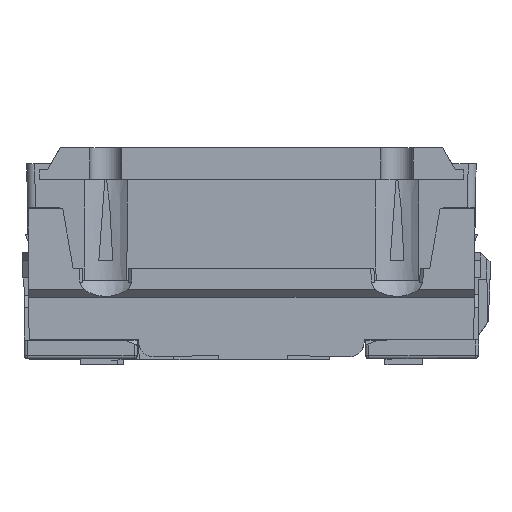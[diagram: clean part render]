
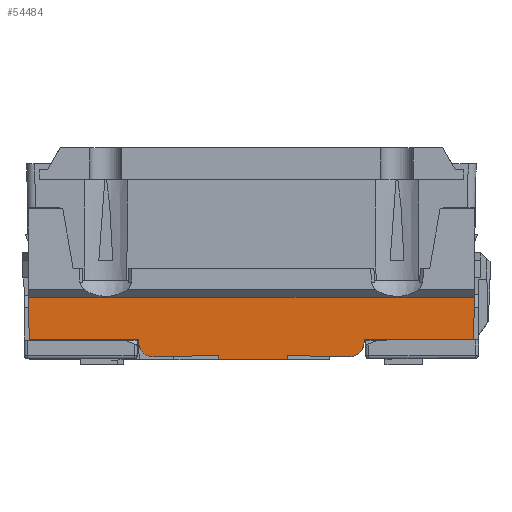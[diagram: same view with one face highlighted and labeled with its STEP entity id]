
A CAD part, left-side view. The second image highlights one B-rep face of the part: STEP entity #54484.
In plain terms, the highlighted planar face has unit normal (-1, 0, -0.009).
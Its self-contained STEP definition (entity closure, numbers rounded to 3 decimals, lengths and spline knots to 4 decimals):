
#1269=ELLIPSE('',#57726,0.23,0.23);
#1284=ELLIPSE('',#57896,0.23,0.23);
#4034=PLANE('',#57895);
#6712=FACE_OUTER_BOUND('',#9569,.T.);
#9569=EDGE_LOOP('',(#43576,#43577,#43578,#43579,#43580,#43581,#43582,#43583,
#43584,#43585,#43586,#43587,#43588,#43589));
#13055=LINE('',#83760,#18366);
#13751=LINE('',#85452,#19062);
#14656=LINE('',#87458,#19967);
#14657=LINE('',#87460,#19968);
#14660=LINE('',#87466,#19971);
#14662=LINE('',#87471,#19973);
#14664=LINE('',#87474,#19975);
#14754=LINE('',#87650,#20065);
#14763=LINE('',#87667,#20074);
#14799=LINE('',#87743,#20110);
#14925=LINE('',#88050,#20236);
#14926=LINE('',#88051,#20237);
#18366=VECTOR('',#64634,0.0501);
#19062=VECTOR('',#65668,7.2873);
#19967=VECTOR('',#67617,1.7901);
#19968=VECTOR('',#67620,0.6994);
#19971=VECTOR('',#67625,0.0718);
#19973=VECTOR('',#67629,0.0725);
#19975=VECTOR('',#67633,1.061);
#20065=VECTOR('',#67805,1.131);
#20074=VECTOR('',#67820,1.0189);
#20110=VECTOR('',#67894,0.6994);
#20236=VECTOR('',#68224,0.0501);
#20237=VECTOR('',#68225,1.7901);
#23721=VERTEX_POINT('',#83757);
#23722=VERTEX_POINT('',#83759);
#24414=VERTEX_POINT('',#85449);
#24415=VERTEX_POINT('',#85451);
#24957=VERTEX_POINT('',#87452);
#24958=VERTEX_POINT('',#87456);
#24959=VERTEX_POINT('',#87462);
#24960=VERTEX_POINT('',#87464);
#24961=VERTEX_POINT('',#87468);
#24962=VERTEX_POINT('',#87470);
#25012=VERTEX_POINT('',#87665);
#25033=VERTEX_POINT('',#87742);
#25111=VERTEX_POINT('',#88047);
#25112=VERTEX_POINT('',#88049);
#29655=EDGE_CURVE('',#23721,#23722,#13055,.F.);
#30463=EDGE_CURVE('',#24414,#24415,#13751,.T.);
#31455=EDGE_CURVE('',#24957,#23721,#1269,.F.);
#31458=EDGE_CURVE('',#23722,#24958,#14656,.F.);
#31459=EDGE_CURVE('',#24414,#24958,#14657,.F.);
#31462=EDGE_CURVE('',#24959,#24960,#14660,.T.);
#31464=EDGE_CURVE('',#24962,#24961,#14662,.T.);
#31466=EDGE_CURVE('',#24962,#24957,#14664,.T.);
#31556=EDGE_CURVE('',#24959,#24961,#14754,.F.);
#31565=EDGE_CURVE('',#24960,#25012,#14763,.T.);
#31604=EDGE_CURVE('',#25033,#24415,#14799,.F.);
#31759=EDGE_CURVE('',#25111,#25012,#1284,.F.);
#31760=EDGE_CURVE('',#25112,#25111,#14925,.F.);
#31761=EDGE_CURVE('',#25033,#25112,#14926,.F.);
#43576=ORIENTED_EDGE('',*,*,#31466,.F.);
#43577=ORIENTED_EDGE('',*,*,#31464,.T.);
#43578=ORIENTED_EDGE('',*,*,#31556,.F.);
#43579=ORIENTED_EDGE('',*,*,#31462,.T.);
#43580=ORIENTED_EDGE('',*,*,#31565,.T.);
#43581=ORIENTED_EDGE('',*,*,#31759,.F.);
#43582=ORIENTED_EDGE('',*,*,#31760,.F.);
#43583=ORIENTED_EDGE('',*,*,#31761,.F.);
#43584=ORIENTED_EDGE('',*,*,#31604,.T.);
#43585=ORIENTED_EDGE('',*,*,#30463,.F.);
#43586=ORIENTED_EDGE('',*,*,#31459,.T.);
#43587=ORIENTED_EDGE('',*,*,#31458,.F.);
#43588=ORIENTED_EDGE('',*,*,#29655,.F.);
#43589=ORIENTED_EDGE('',*,*,#31455,.F.);
#54484=ADVANCED_FACE('',(#6712),#4034,.T.);
#57726=AXIS2_PLACEMENT_3D('',#87453,#67611,#67612);
#57895=AXIS2_PLACEMENT_3D('',#88046,#68220,#68221);
#57896=AXIS2_PLACEMENT_3D('',#88048,#68222,#68223);
#64634=DIRECTION('',(0.009,-0.017,-1.));
#65668=DIRECTION('',(0.,-1.,0.));
#67611=DIRECTION('center_axis',(-1.,0.,
-0.009));
#67612=DIRECTION('ref_axis',(0.009,0.,
-1.));
#67617=DIRECTION('',(0.,-1.,0.));
#67620=DIRECTION('',(-0.009,0.017,1.));
#67625=DIRECTION('',(-0.009,-0.017,1.));
#67629=DIRECTION('',(0.009,-0.017,-1.));
#67633=DIRECTION('',(0.,1.,-0.017));
#67805=DIRECTION('',(0.,-1.,0.));
#67820=DIRECTION('',(0.,-1.,-0.017));
#67894=DIRECTION('',(0.009,0.017,-1.));
#68220=DIRECTION('center_axis',(-1.,0.,
-0.009));
#68221=DIRECTION('ref_axis',(0.,-1.,0.));
#68222=DIRECTION('center_axis',(-1.,0.,
-0.009));
#68223=DIRECTION('ref_axis',(0.009,0.,
-1.));
#68224=DIRECTION('',(-0.009,-0.017,1.));
#68225=DIRECTION('',(0.,-1.,0.));
#83757=CARTESIAN_POINT('',(-4.0878,1.8405,-2.41));
#83759=CARTESIAN_POINT('',(-4.0882,1.8414,-2.36));
#83760=CARTESIAN_POINT('',(-4.096,1.8569,-1.4717));
#85449=CARTESIAN_POINT('',(-4.0943,3.6436,-1.6607));
#85451=CARTESIAN_POINT('',(-4.0943,-3.6436,-1.6607));
#85452=CARTESIAN_POINT('',(-4.0943,3.6384,-1.6607));
#87452=CARTESIAN_POINT('',(-4.0858,1.6065,-2.636));
#87453=CARTESIAN_POINT('Origin',(-4.0878,1.6105,-2.406));
#87456=CARTESIAN_POINT('',(-4.0882,3.6314,-2.36));
#87458=CARTESIAN_POINT('',(-4.0882,1.8196,-2.36));
#87460=CARTESIAN_POINT('',(-4.0973,3.6496,-1.321));
#87462=CARTESIAN_POINT('',(-4.0853,-0.5865,-2.69));
#87464=CARTESIAN_POINT('',(-4.086,-0.5878,-2.6182));
#87466=CARTESIAN_POINT('',(-4.091,-0.5979,-2.0409));
#87468=CARTESIAN_POINT('',(-4.0853,0.5444,-2.69));
#87470=CARTESIAN_POINT('',(-4.086,0.5457,-2.6175));
#87471=CARTESIAN_POINT('',(-4.0915,0.5568,-1.9793));
#87474=CARTESIAN_POINT('',(-4.0856,2.7271,-2.6556));
#87650=CARTESIAN_POINT('',(-4.0853,0.1196,-2.69));
#87665=CARTESIAN_POINT('',(-4.0858,-1.6065,-2.636));
#87667=CARTESIAN_POINT('',(-4.0863,1.3599,-2.5842));
#87742=CARTESIAN_POINT('',(-4.0882,-3.6314,-2.36));
#87743=CARTESIAN_POINT('',(-4.0909,-3.6367,-2.0566));
#88046=CARTESIAN_POINT('Origin',(-4.0967,3.6392,-1.3905));
#88047=CARTESIAN_POINT('',(-4.0878,-1.8405,-2.41));
#88048=CARTESIAN_POINT('Origin',(-4.0878,-1.6105,-2.406));
#88049=CARTESIAN_POINT('',(-4.0882,-1.8414,-2.36));
#88050=CARTESIAN_POINT('',(-4.0954,-1.8558,-1.5349));
#88051=CARTESIAN_POINT('',(-4.0882,1.8196,-2.36));
